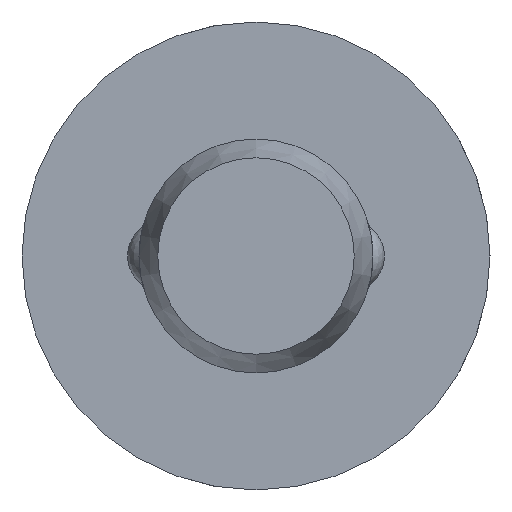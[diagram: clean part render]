
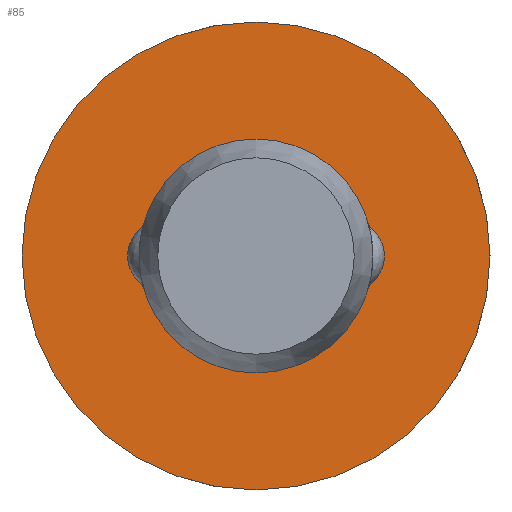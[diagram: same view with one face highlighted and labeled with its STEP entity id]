
A CAD part, left-side view. The second image highlights one B-rep face of the part: STEP entity #85.
In plain terms, the highlighted planar face has unit normal (-1, 0, 0).
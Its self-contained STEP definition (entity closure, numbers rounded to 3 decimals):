
#85 = ADVANCED_FACE( '', ( #131, #132 ), #133, .F. );
#131 = FACE_OUTER_BOUND( '', #204, .T. );
#132 = FACE_BOUND( '', #205, .T. );
#133 = PLANE( '', #206 );
#204 = EDGE_LOOP( '', ( #322 ) );
#205 = EDGE_LOOP( '', ( #323 ) );
#206 = AXIS2_PLACEMENT_3D( '', #324, #325, #326 );
#322 = ORIENTED_EDGE( '', *, *, #470, .F. );
#323 = ORIENTED_EDGE( '', *, *, #467, .T. );
#324 = CARTESIAN_POINT( '', ( 41., 2.5, 0. ) );
#325 = DIRECTION( '', ( 1., 0., 0. ) );
#326 = DIRECTION( '', ( 0., 0., -1. ) );
#467 = EDGE_CURVE( '', #541, #541, #542, .T. );
#470 = EDGE_CURVE( '', #547, #547, #548, .T. );
#541 = VERTEX_POINT( '', #749 );
#542 = CIRCLE( '', #750, 2.5 );
#547 = VERTEX_POINT( '', #801 );
#548 = CIRCLE( '', #802, 5. );
#749 = CARTESIAN_POINT( '', ( 41., 0., -2.5 ) );
#750 = AXIS2_PLACEMENT_3D( '', #881, #882, #883 );
#801 = CARTESIAN_POINT( '', ( 41., 0., -5. ) );
#802 = AXIS2_PLACEMENT_3D( '', #884, #885, #886 );
#881 = CARTESIAN_POINT( '', ( 41., 0., 0. ) );
#882 = DIRECTION( '', ( 1., 0., 0. ) );
#883 = DIRECTION( '', ( 0., 0., -1. ) );
#884 = CARTESIAN_POINT( '', ( 41., 0., 0. ) );
#885 = DIRECTION( '', ( 1., 0., 0. ) );
#886 = DIRECTION( '', ( 0., 0., -1. ) );
